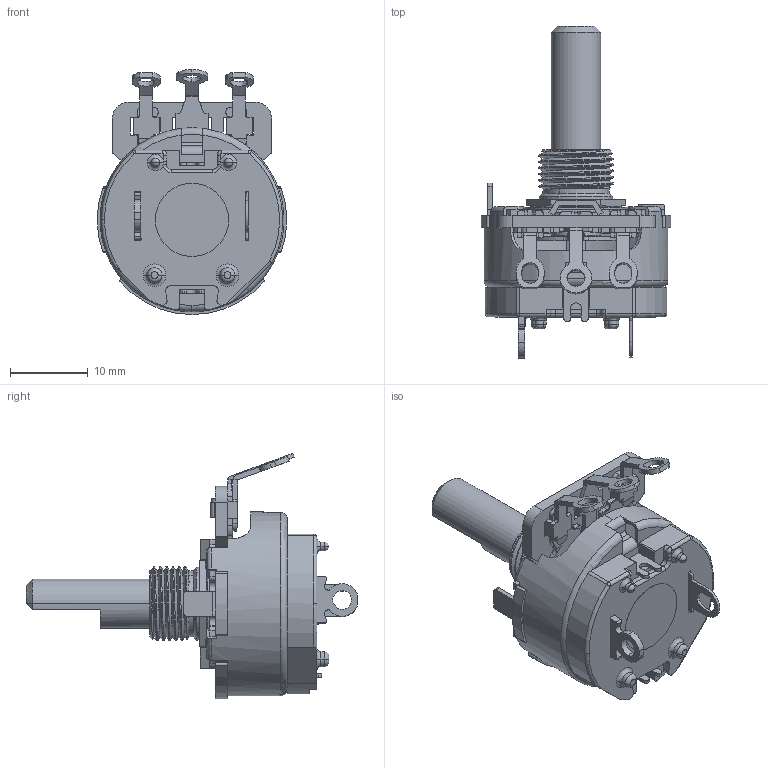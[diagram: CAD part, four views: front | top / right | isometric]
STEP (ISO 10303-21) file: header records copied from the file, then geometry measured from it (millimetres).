
FILE_DESCRIPTION (( 'STEP AP214' ), '1' );
FILE_NAME ('450T228F103A1B1.STEP', '2019-05-24T09:01:33', ( '' ), ( '' ), 'SwSTEP 2.0', 'SolidWorks 2019', '' );
FILE_SCHEMA (( 'AUTOMOTIVE_DESIGN' ));
Length unit declared in the file: millimetre
Products named in the file (13): 450 element; T450AEDF(For 104G); 45C-2T-Left lug; 050-01-018-34-01; 450-40-025_Flat Bottom_45Q54 withFenderTradeMark_NewDetentSetting_07102012; 050-18-005-10-21; 050-18-006-06-12 assembly; 45050-EF-11652-28; 450A-104G; 450T228F103A1B1; 450D-17 for T450AEDF; 450F-23 for T450AEDF; 450B-4
Assembly tree (13 placements, depth 3):
  450T228F103A1B1
    450-40-025_Flat Bottom_45Q54 withFenderTradeMark_NewDetentSetting_07102012
    050-01-018-34-01
    050-18-006-06-12 assembly
    050-18-005-10-21
    T450AEDF(For 104G)
      450A-104G
      450D-17 for T450AEDF
      450 element
      450F-23 for T450AEDF  x2
    45C-2T-Left lug
    450B-4
    45050-EF-11652-28
Bounding box: 24.33 x 42.61 x 31.47 mm (x, y, z)
Volume: 3733.9 mm3; surface area: 7675.5 mm2
Topology: 12 solids, 12 shells, 964 faces, 2672 edges, 1739 vertices
Faces by surface type: plane 528, cylinder 352, torus 53, cone 25, bspline 6
Entity records: 30551 total; most frequent: CARTESIAN_POINT 6551, ORIENTED_EDGE 4978, DIRECTION 4957, EDGE_CURVE 2489, AXIS2_PLACEMENT_3D 1705, VERTEX_POINT 1622, VECTOR 1547, LINE 1547
